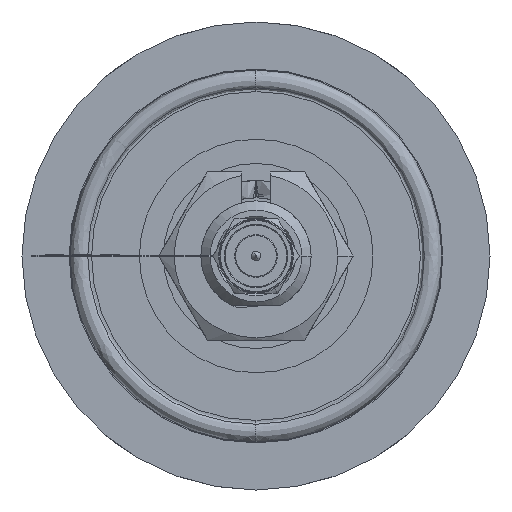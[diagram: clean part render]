
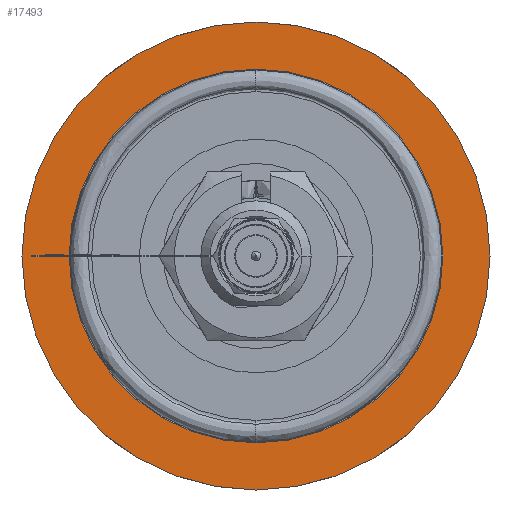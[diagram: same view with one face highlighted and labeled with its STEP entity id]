
A CAD part, front view. The second image highlights one B-rep face of the part: STEP entity #17493.
In plain terms, the highlighted planar face has unit normal (0, -1, 0) as drawn and (0, 0, -1) by its records, which use the part's own axes.
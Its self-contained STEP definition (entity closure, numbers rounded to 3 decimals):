
#427 = CIRCLE ( 'NONE', #3748, 25.045 ) ;
#480 = AXIS2_PLACEMENT_3D ( 'NONE', #2276, #5311, #24290 ) ;
#597 = CARTESIAN_POINT ( 'NONE',  ( 50., 41.701, -3. ) ) ;
#2276 = CARTESIAN_POINT ( 'NONE',  ( 50., 41.701, -3. ) ) ;
#3748 = AXIS2_PLACEMENT_3D ( 'NONE', #10240, #6928, #19843 ) ;
#3931 = AXIS2_PLACEMENT_3D ( 'NONE', #28176, #40712, #34300 ) ;
#5311 = DIRECTION ( 'NONE',  ( 0., 0., 1. ) ) ;
#5855 = PLANE ( 'NONE',  #3931 ) ;
#6928 = DIRECTION ( 'NONE',  ( 0., 0., 1. ) ) ;
#8757 = AXIS2_PLACEMENT_3D ( 'NONE', #597, #19907, #16587 ) ;
#10240 = CARTESIAN_POINT ( 'NONE',  ( 50., 41.701, -3. ) ) ;
#12193 = VERTEX_POINT ( 'NONE', #29689 ) ;
#13586 = VERTEX_POINT ( 'NONE', #41239 ) ;
#13723 = EDGE_CURVE ( 'NONE', #12193, #13586, #36328, .T. ) ;
#13988 = ORIENTED_EDGE ( 'NONE', *, *, #30678, .F. ) ;
#16587 = DIRECTION ( 'NONE',  ( -1., 0., 0. ) ) ;
#17074 = DIRECTION ( 'NONE',  ( -1., 0., 0. ) ) ;
#17356 = DIRECTION ( 'NONE',  ( 0., 0., 1. ) ) ;
#17493 = ADVANCED_FACE ( 'NONE', ( #24967, #29431 ), #5855, .T. ) ;
#18604 = CIRCLE ( 'NONE', #480, 25.045 ) ;
#18611 = ORIENTED_EDGE ( 'NONE', *, *, #25871, .T. ) ;
#19843 = DIRECTION ( 'NONE',  ( -1., 0., 0. ) ) ;
#19907 = DIRECTION ( 'NONE',  ( 0., 0., 1. ) ) ;
#24005 = CARTESIAN_POINT ( 'NONE',  ( 24.955, 41.701, -3. ) ) ;
#24290 = DIRECTION ( 'NONE',  ( -1., 0., 0. ) ) ;
#24781 = VERTEX_POINT ( 'NONE', #28305 ) ;
#24967 = FACE_BOUND ( 'NONE', #32241, .T. ) ;
#25871 = EDGE_CURVE ( 'NONE', #13586, #12193, #26231, .T. ) ;
#26231 = CIRCLE ( 'NONE', #8757, 20. ) ;
#28176 = CARTESIAN_POINT ( 'NONE',  ( 50., 41.701, -3. ) ) ;
#28305 = CARTESIAN_POINT ( 'NONE',  ( 75.045, 41.701, -3. ) ) ;
#29431 = FACE_OUTER_BOUND ( 'NONE', #30904, .T. ) ;
#29689 = CARTESIAN_POINT ( 'NONE',  ( 30., 41.701, -3. ) ) ;
#30678 = EDGE_CURVE ( 'NONE', #37657, #24781, #18604, .T. ) ;
#30904 = EDGE_LOOP ( 'NONE', ( #13988, #34035 ) ) ;
#30978 = ORIENTED_EDGE ( 'NONE', *, *, #13723, .T. ) ;
#32241 = EDGE_LOOP ( 'NONE', ( #30978, #18611 ) ) ;
#33932 = EDGE_CURVE ( 'NONE', #24781, #37657, #427, .T. ) ;
#34035 = ORIENTED_EDGE ( 'NONE', *, *, #33932, .F. ) ;
#34300 = DIRECTION ( 'NONE',  ( -1., 0., 0. ) ) ;
#36328 = CIRCLE ( 'NONE', #38896, 20. ) ;
#36483 = CARTESIAN_POINT ( 'NONE',  ( 50., 41.701, -3. ) ) ;
#37657 = VERTEX_POINT ( 'NONE', #24005 ) ;
#38896 = AXIS2_PLACEMENT_3D ( 'NONE', #36483, #17356, #17074 ) ;
#40712 = DIRECTION ( 'NONE',  ( 0., 0., -1. ) ) ;
#41239 = CARTESIAN_POINT ( 'NONE',  ( 70., 41.701, -3. ) ) ;
